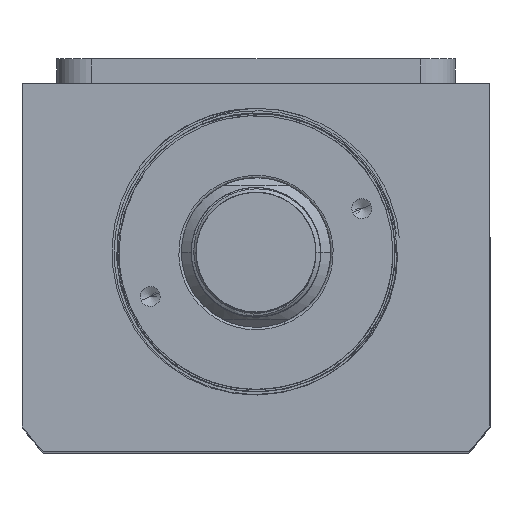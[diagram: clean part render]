
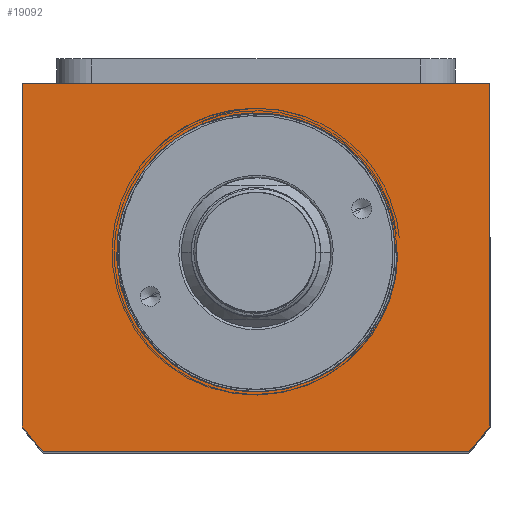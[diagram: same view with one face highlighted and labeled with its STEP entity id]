
A CAD part, top view. The second image highlights one B-rep face of the part: STEP entity #19092.
In plain terms, the highlighted planar face has unit normal (0, 0, 1).
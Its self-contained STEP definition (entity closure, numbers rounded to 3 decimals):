
#22 = DIRECTION ( 'NONE',  ( 0., 0., 1. ) ) ;
#504 = VERTEX_POINT ( 'NONE', #2406 ) ;
#843 = CARTESIAN_POINT ( 'NONE',  ( 47., -34.832, 87.5 ) ) ;
#968 = DIRECTION ( 'NONE',  ( 0., -1., 0. ) ) ;
#1033 = CARTESIAN_POINT ( 'NONE',  ( 28.495, 0., 87.5 ) ) ;
#1191 = PLANE ( 'NONE',  #18980 ) ;
#1472 = CARTESIAN_POINT ( 'NONE',  ( 15.3, -23.593, 87.5 ) ) ;
#1568 = VECTOR ( 'NONE', #8795, 1000. ) ;
#1569 = DIRECTION ( 'NONE',  ( 1., 0., 0. ) ) ;
#2107 = EDGE_CURVE ( 'NONE', #15770, #13489, #11657, .T. ) ;
#2406 = CARTESIAN_POINT ( 'NONE',  ( -47., -34.832, 87.5 ) ) ;
#2855 = VERTEX_POINT ( 'NONE', #14917 ) ;
#2947 = FACE_BOUND ( 'NONE', #3308, .T. ) ;
#2989 = CARTESIAN_POINT ( 'NONE',  ( 16.467, -22.819, 87.5 ) ) ;
#3050 = CARTESIAN_POINT ( 'NONE',  ( 24.898, -13.504, 87.5 ) ) ;
#3121 = CARTESIAN_POINT ( 'NONE',  ( 19.714, -20.129, 87.5 ) ) ;
#3206 = LINE ( 'NONE', #3281, #11908 ) ;
#3281 = CARTESIAN_POINT ( 'NONE',  ( 42.688, -40., 87.5 ) ) ;
#3307 = ORIENTED_EDGE ( 'NONE', *, *, #10526, .F. ) ;
#3308 = EDGE_LOOP ( 'NONE', ( #3307, #12037, #16314 ) ) ;
#3364 = EDGE_CURVE ( 'NONE', #17933, #504, #11419, .T. ) ;
#3424 = VECTOR ( 'NONE', #10655, 1000. ) ;
#3450 = CIRCLE ( 'NONE', #5460, 28. ) ;
#3905 = VECTOR ( 'NONE', #968, 1000. ) ;
#4000 = AXIS2_PLACEMENT_3D ( 'NONE', #12010, #13540, #1569 ) ;
#4499 = CARTESIAN_POINT ( 'NONE',  ( 12.831, -24.945, 87.5 ) ) ;
#4526 = DIRECTION ( 'NONE',  ( -1., 0., 0. ) ) ;
#4634 = CARTESIAN_POINT ( 'NONE',  ( 27.887, -5.628, 87.5 ) ) ;
#4718 = CARTESIAN_POINT ( 'NONE',  ( 10.232, -26.064, 87.5 ) ) ;
#5355 = ORIENTED_EDGE ( 'NONE', *, *, #7303, .T. ) ;
#5460 = AXIS2_PLACEMENT_3D ( 'NONE', #17350, #8546, #9996 ) ;
#5522 = B_SPLINE_CURVE_WITH_KNOTS ( 'NONE', 3,
 ( #1033, #11547, #18014, #12049, #6079, #4634, #13444, #7657, #13576, #3050, #8845, #17956, #8912, #19336, #3121, #11981, #13385, #2989, #1472, #9040, #4499, #8972, #10410, #19470 ),
 .UNSPECIFIED., .F., .F.,
 ( 4, 2, 2, 2, 2, 2, 2, 2, 2, 2, 2, 4 ),
 ( 0., 0.002, 0.004, 0.009, 0.013, 0.017, 0.021, 0.023, 0.026, 0.03, 0.032, 0.034 ),
 .UNSPECIFIED. ) ;
#5708 = CARTESIAN_POINT ( 'NONE',  ( 0., 0., 87.5 ) ) ;
#5769 = VECTOR ( 'NONE', #4526, 1000. ) ;
#6066 = CARTESIAN_POINT ( 'NONE',  ( 47., 34., 87.5 ) ) ;
#6079 = CARTESIAN_POINT ( 'NONE',  ( 28.233, -3.538, 87.5 ) ) ;
#6372 = DIRECTION ( 'NONE',  ( 1., 0., 0. ) ) ;
#6603 = VERTEX_POINT ( 'NONE', #17649 ) ;
#7303 = EDGE_CURVE ( 'NONE', #15627, #18490, #3206, .T. ) ;
#7370 = CARTESIAN_POINT ( 'NONE',  ( -47., 34., 87.5 ) ) ;
#7592 = CARTESIAN_POINT ( 'NONE',  ( 0., 0., 87.5 ) ) ;
#7657 = CARTESIAN_POINT ( 'NONE',  ( 26.694, -9.657, 87.5 ) ) ;
#8218 = CARTESIAN_POINT ( 'NONE',  ( -47., 34., 87.5 ) ) ;
#8546 = DIRECTION ( 'NONE',  ( 0., 0., -1. ) ) ;
#8795 = DIRECTION ( 'NONE',  ( -1., 0., 0. ) ) ;
#8845 = CARTESIAN_POINT ( 'NONE',  ( 24.178, -14.712, 87.5 ) ) ;
#8862 = EDGE_CURVE ( 'NONE', #18490, #15770, #19229, .T. ) ;
#8912 = CARTESIAN_POINT ( 'NONE',  ( 21.684, -18.094, 87.5 ) ) ;
#8972 = CARTESIAN_POINT ( 'NONE',  ( 11.542, -25.544, 87.5 ) ) ;
#9003 = DIRECTION ( 'NONE',  ( 0., 0., 1. ) ) ;
#9040 = CARTESIAN_POINT ( 'NONE',  ( 13.459, -24.624, 87.5 ) ) ;
#9609 = VERTEX_POINT ( 'NONE', #4718 ) ;
#9996 = DIRECTION ( 'NONE',  ( 1., 0., 0. ) ) ;
#10104 = CARTESIAN_POINT ( 'NONE',  ( -47., -34.832, 87.5 ) ) ;
#10410 = CARTESIAN_POINT ( 'NONE',  ( 10.89, -25.816, 87.5 ) ) ;
#10526 = EDGE_CURVE ( 'NONE', #2855, #6603, #11469, .T. ) ;
#10655 = DIRECTION ( 'NONE',  ( 0., 1., 0. ) ) ;
#11073 = EDGE_CURVE ( 'NONE', #9609, #6603, #3450, .T. ) ;
#11419 = LINE ( 'NONE', #10104, #3905 ) ;
#11469 = LINE ( 'NONE', #5708, #1568 ) ;
#11547 = CARTESIAN_POINT ( 'NONE',  ( 28.485, -0.71, 87.5 ) ) ;
#11593 = ORIENTED_EDGE ( 'NONE', *, *, #13421, .T. ) ;
#11657 = LINE ( 'NONE', #6066, #3424 ) ;
#11752 = EDGE_LOOP ( 'NONE', ( #11593, #17912, #13026, #5355, #13145, #13450 ) ) ;
#11881 = FACE_OUTER_BOUND ( 'NONE', #11752, .T. ) ;
#11908 = VECTOR ( 'NONE', #6372, 1000. ) ;
#11981 = CARTESIAN_POINT ( 'NONE',  ( 18.667, -21.077, 87.5 ) ) ;
#12010 = CARTESIAN_POINT ( 'NONE',  ( 0., 0., 87.5 ) ) ;
#12037 = ORIENTED_EDGE ( 'NONE', *, *, #13156, .T. ) ;
#12049 = CARTESIAN_POINT ( 'NONE',  ( 28.323, -2.832, 87.5 ) ) ;
#12201 = DIRECTION ( 'NONE',  ( 1., 0., 0. ) ) ;
#13026 = ORIENTED_EDGE ( 'NONE', *, *, #17569, .T. ) ;
#13145 = ORIENTED_EDGE ( 'NONE', *, *, #8862, .T. ) ;
#13156 = EDGE_CURVE ( 'NONE', #2855, #9609, #5522, .T. ) ;
#13215 = DIRECTION ( 'NONE',  ( 1., 0., 0. ) ) ;
#13385 = CARTESIAN_POINT ( 'NONE',  ( 18.129, -21.529, 87.5 ) ) ;
#13421 = EDGE_CURVE ( 'NONE', #13489, #17933, #15386, .T. ) ;
#13444 = CARTESIAN_POINT ( 'NONE',  ( 27.555, -6.99, 87.5 ) ) ;
#13450 = ORIENTED_EDGE ( 'NONE', *, *, #2107, .T. ) ;
#13489 = VERTEX_POINT ( 'NONE', #15145 ) ;
#13540 = DIRECTION ( 'NONE',  ( 0., 0., 1. ) ) ;
#13576 = CARTESIAN_POINT ( 'NONE',  ( 26.163, -10.961, 87.5 ) ) ;
#14026 = CIRCLE ( 'NONE', #4000, 58.5 ) ;
#14917 = CARTESIAN_POINT ( 'NONE',  ( 28.495, 0., 87.5 ) ) ;
#15090 = AXIS2_PLACEMENT_3D ( 'NONE', #7592, #22, #12201 ) ;
#15145 = CARTESIAN_POINT ( 'NONE',  ( 47., 34., 87.5 ) ) ;
#15386 = LINE ( 'NONE', #7370, #5769 ) ;
#15600 = CARTESIAN_POINT ( 'NONE',  ( 42.688, -40., 87.5 ) ) ;
#15627 = VERTEX_POINT ( 'NONE', #17785 ) ;
#15770 = VERTEX_POINT ( 'NONE', #843 ) ;
#16314 = ORIENTED_EDGE ( 'NONE', *, *, #11073, .T. ) ;
#17350 = CARTESIAN_POINT ( 'NONE',  ( 0., 0., 87.5 ) ) ;
#17569 = EDGE_CURVE ( 'NONE', #504, #15627, #14026, .T. ) ;
#17649 = CARTESIAN_POINT ( 'NONE',  ( 28., 0., 87.5 ) ) ;
#17785 = CARTESIAN_POINT ( 'NONE',  ( -42.688, -40., 87.5 ) ) ;
#17912 = ORIENTED_EDGE ( 'NONE', *, *, #3364, .T. ) ;
#17933 = VERTEX_POINT ( 'NONE', #8218 ) ;
#17956 = CARTESIAN_POINT ( 'NONE',  ( 22.571, -17.007, 87.5 ) ) ;
#18014 = CARTESIAN_POINT ( 'NONE',  ( 28.449, -1.419, 87.5 ) ) ;
#18490 = VERTEX_POINT ( 'NONE', #15600 ) ;
#18980 = AXIS2_PLACEMENT_3D ( 'NONE', #19296, #9003, #13215 ) ;
#19092 = ADVANCED_FACE ( 'NONE', ( #2947, #11881 ), #1191, .T. ) ;
#19229 = CIRCLE ( 'NONE', #15090, 58.5 ) ;
#19296 = CARTESIAN_POINT ( 'NONE',  ( 0., 0., 87.5 ) ) ;
#19336 = CARTESIAN_POINT ( 'NONE',  ( 20.224, -19.631, 87.5 ) ) ;
#19470 = CARTESIAN_POINT ( 'NONE',  ( 10.232, -26.064, 87.5 ) ) ;
